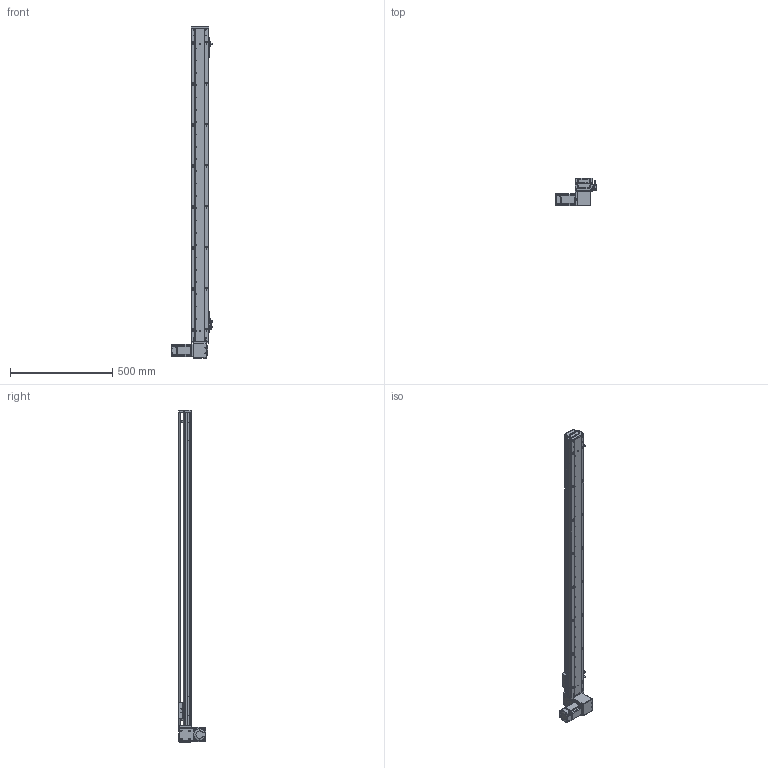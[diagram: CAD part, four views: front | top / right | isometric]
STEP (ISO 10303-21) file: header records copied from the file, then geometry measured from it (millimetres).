
FILE_DESCRIPTION (( 'STEP AP203' ), '1' );
FILE_NAME ('RY80-T-300-DL.SLDASM_1350.step', '2021-03-01T01:39:05', ( '盈信电脑' ), ( '东莞市道滘镇水果街19号' ), 'SwSTEP 2.0', 'SolidWorks 2012', '' );
FILE_SCHEMA (( 'CONFIG_CONTROL_DESIGN' ));
Products named in the file (19): RY80-T-300-DL.SLDASM_1350; RY80-T-上下折同步轮盖板; RY80-T-M4蹟翐3; RY100-T粣創揤踡裔; RY80-T肮祭謫狟殏俋欶; 1; RY80-T翋肮祭謫裔啣; 滅袉蝶18-10; RY80-T-翋肮祭謫釱; RY80-T萇儂假蚾啣; RY80-T肮祭湍揤輸2; RY80-T肮祭湍揤輸1; RY80-T綴裔啣; RY80俋离覜茼え; 672嫖萇羲壽假蚾釱; 覜茼ん672; RY80-T-300-DL倰第奻裔啣_1350; RY80-T肮祭謫臏賑輸; RY80-T-300-DL倰第菁釱_1350
Assembly tree (24 placements, depth 2):
  RY80-T-300-DL.SLDASM_1350
    RY80-T-300-DL倰第菁釱_1350
    RY80-T肮祭謫臏賑輸
    RY80-T-300-DL倰第奻裔啣_1350
    RY80-T綴裔啣
    672嫖萇羲壽假蚾釱  x2
    覜茼ん672  x3
    RY80俋离覜茼え
    RY80-T-翋肮祭謫釱
    RY80-T肮祭湍揤輸1
    RY80-T肮祭湍揤輸2
    RY80-T萇儂假蚾啣
    RY80-T翋肮祭謫裔啣  x2
    滅袉蝶18-10  x2
    1
    RY80-T肮祭謫狟殏俋欶
    RY80-T-M4蹟翐3  x2
    RY80-T-上下折同步轮盖板
    RY100-T粣創揤踡裔
Bounding box: 198.7 x 134.5 x 1620 mm (x, y, z)
Volume: 2640592.2 mm3; surface area: 1125945.7 mm2
Topology: 24 solids, 24 shells, 2542 faces, 7018 edges, 4557 vertices
Faces by surface type: plane 1349, cylinder 987, cone 150, bspline 56
Entity records: 80339 total; most frequent: CARTESIAN_POINT 19672, ORIENTED_EDGE 12480, DIRECTION 11712, EDGE_CURVE 6240, VERTEX_POINT 4098, AXIS2_PLACEMENT_3D 3954, LINE 3804, VECTOR 3804
